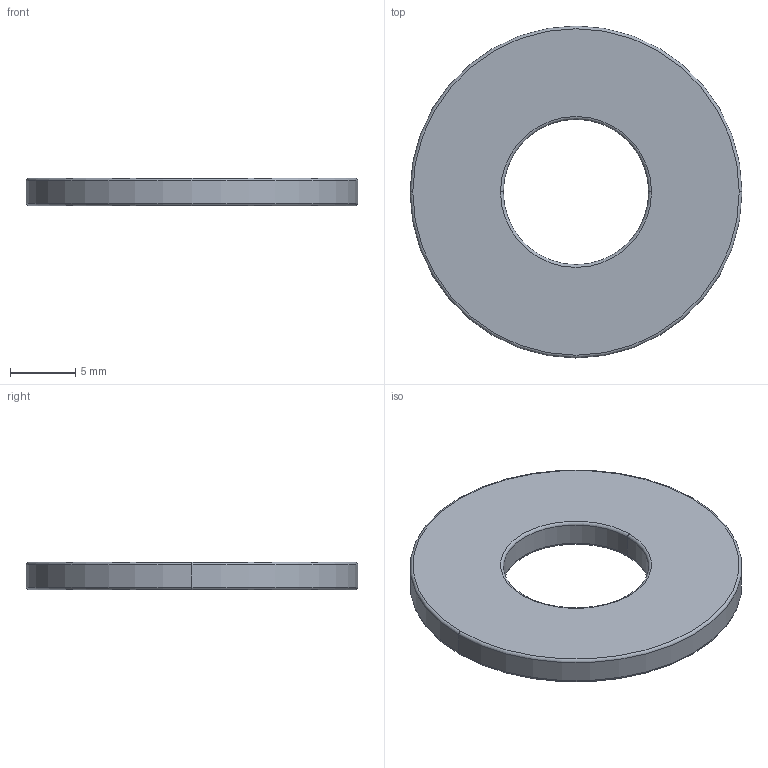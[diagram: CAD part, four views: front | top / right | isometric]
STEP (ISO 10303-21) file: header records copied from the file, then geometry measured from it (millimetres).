
FILE_DESCRIPTION (( 'STEP AP214' ), '1' );
FILE_NAME ('91860A031_17-7 PH Stainless Steel Washer.STEP', '2023-11-02T16:00:52', ( '' ), ( '' ), 'SwSTEP 2.0', 'SolidWorks 2023', '' );
FILE_SCHEMA (( 'AUTOMOTIVE_DESIGN' ));
Length unit declared in the file: metre
Products named in the file (1): 91860A031_17-7 PH Stainless Steel Washer
Bounding box: 25.4 x 25.4 x 2.11 mm (x, y, z)
Volume: 861.1 mm3; surface area: 1040.1 mm2
Topology: 1 solids, 1 shells, 14 faces, 28 edges, 16 vertices
Faces by surface type: torus 8, cylinder 4, plane 2
Entity records: 399 total; most frequent: DIRECTION 82, CARTESIAN_POINT 59, ORIENTED_EDGE 56, AXIS2_PLACEMENT_3D 39, EDGE_CURVE 28, CIRCLE 24, VERTEX_POINT 16, EDGE_LOOP 16
